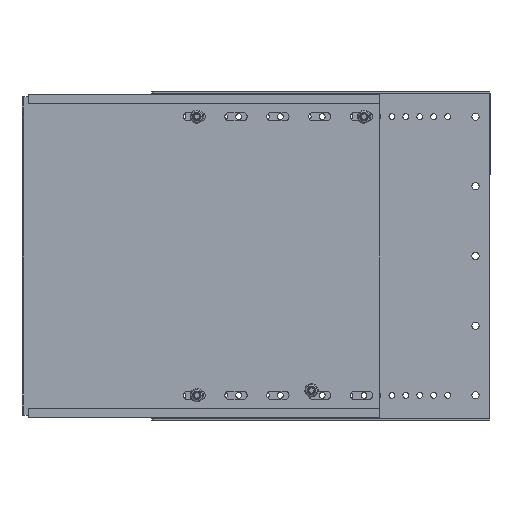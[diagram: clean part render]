
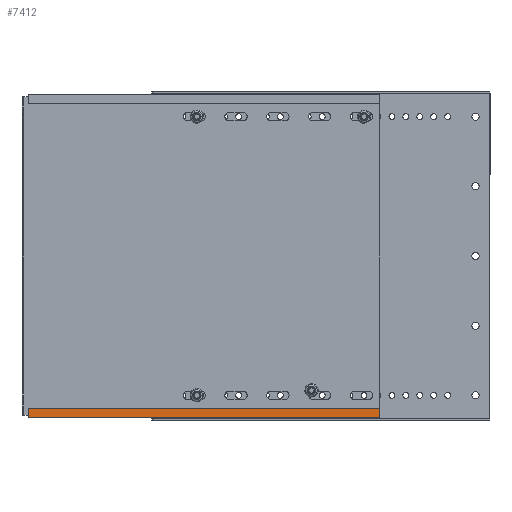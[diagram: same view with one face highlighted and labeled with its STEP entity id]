
A CAD part, front view. The second image highlights one B-rep face of the part: STEP entity #7412.
In plain terms, the highlighted planar face has unit normal (0, -1, 0).
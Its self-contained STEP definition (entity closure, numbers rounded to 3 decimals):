
#35 = EDGE_CURVE ( 'NONE', #8096, #2745, #573, .T. ) ;
#196 = CARTESIAN_POINT ( 'NONE',  ( -422.845, -1.6, -145.25 ) ) ;
#235 = LINE ( 'NONE', #196, #1950 ) ;
#240 = EDGE_CURVE ( 'NONE', #4645, #1881, #1585, .T. ) ;
#407 = EDGE_LOOP ( 'NONE', ( #7164, #6094, #2018, #5205 ) ) ;
#448 = VECTOR ( 'NONE', #5679, 1000. ) ;
#503 = CARTESIAN_POINT ( 'NONE',  ( -256.25, -1.6, -136.7 ) ) ;
#573 = LINE ( 'NONE', #1039, #2726 ) ;
#1023 = DIRECTION ( 'NONE',  ( 0., 0., 1. ) ) ;
#1039 = CARTESIAN_POINT ( 'NONE',  ( -98.75, -1.6, -140.2 ) ) ;
#1046 = EDGE_CURVE ( 'NONE', #1881, #8096, #2373, .T. ) ;
#1585 = LINE ( 'NONE', #6121, #7475 ) ;
#1881 = VERTEX_POINT ( 'NONE', #7227 ) ;
#1950 = VECTOR ( 'NONE', #2779, 1000. ) ;
#2018 = ORIENTED_EDGE ( 'NONE', *, *, #2840, .T. ) ;
#2373 = LINE ( 'NONE', #503, #448 ) ;
#2726 = VECTOR ( 'NONE', #4352, 1000. ) ;
#2745 = VERTEX_POINT ( 'NONE', #6904 ) ;
#2779 = DIRECTION ( 'NONE',  ( 1., 0., 0. ) ) ;
#2840 = EDGE_CURVE ( 'NONE', #4645, #2745, #235, .T. ) ;
#3221 = DIRECTION ( 'NONE',  ( 0., -1., 0. ) ) ;
#3748 = DIRECTION ( 'NONE',  ( 0., 0., -1. ) ) ;
#3943 = CARTESIAN_POINT ( 'NONE',  ( -413.75, -1.6, -145.25 ) ) ;
#4352 = DIRECTION ( 'NONE',  ( 0., 0., -1. ) ) ;
#4645 = VERTEX_POINT ( 'NONE', #3943 ) ;
#5141 = AXIS2_PLACEMENT_3D ( 'NONE', #5810, #3221, #3748 ) ;
#5205 = ORIENTED_EDGE ( 'NONE', *, *, #35, .F. ) ;
#5373 = CARTESIAN_POINT ( 'NONE',  ( -98.75, -1.6, -136.7 ) ) ;
#5679 = DIRECTION ( 'NONE',  ( 1., 0., 0. ) ) ;
#5768 = PLANE ( 'NONE',  #5141 ) ;
#5810 = CARTESIAN_POINT ( 'NONE',  ( -256.25, -1.6, -140.2 ) ) ;
#6094 = ORIENTED_EDGE ( 'NONE', *, *, #240, .F. ) ;
#6121 = CARTESIAN_POINT ( 'NONE',  ( -413.75, -1.6, -140.2 ) ) ;
#6904 = CARTESIAN_POINT ( 'NONE',  ( -98.75, -1.6, -145.25 ) ) ;
#7024 = FACE_OUTER_BOUND ( 'NONE', #407, .T. ) ;
#7164 = ORIENTED_EDGE ( 'NONE', *, *, #1046, .F. ) ;
#7227 = CARTESIAN_POINT ( 'NONE',  ( -413.75, -1.6, -136.7 ) ) ;
#7412 = ADVANCED_FACE ( 'NONE', ( #7024 ), #5768, .T. ) ;
#7475 = VECTOR ( 'NONE', #1023, 1000. ) ;
#8096 = VERTEX_POINT ( 'NONE', #5373 ) ;
